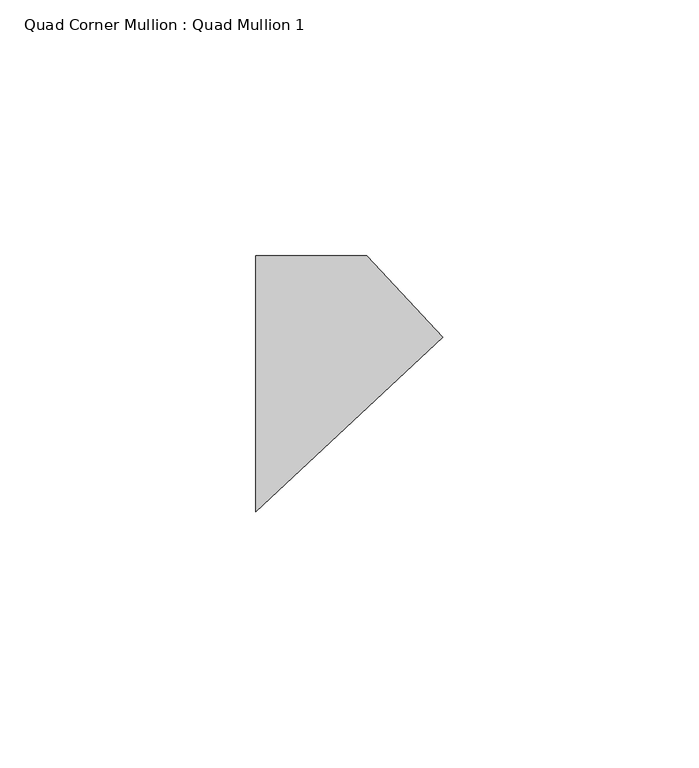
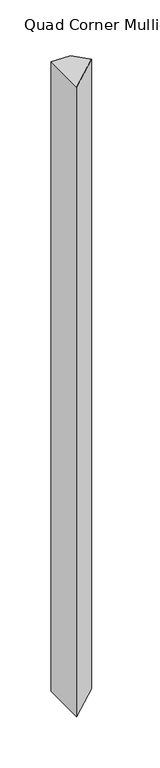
"""IFC4 building model written with IfcOpenShell, lengths in millimetres: member geometry, Quad Corner Mullion : Quad Mullion 1."""

import ifcopenshell
import ifcopenshell.guid

model = None  # the IFC model being written
_history = None  # IfcOwnerHistory: only IFC2X3 demands one
_inside = {}  # id of a spatial element -> (the spatial element, [elements in it])
_under = {}  # id of a project, library or spatial element -> (it, [spatial elements below it])
_declared = {}  # id of a project -> (the project, [libraries it declares])
_typed = {}  # id of a type object -> (the type object, [elements of that type])
_made_of = {}  # id of a material, layer set ... -> (it, [elements and type objects made of it])


def new_model(schema):
    """Start an empty IFC model of exactly this schema.

    Asked for "IFC4X3", IfcOpenShell would pick the latest addendum, in which some entities
    have other attributes; the version numbers below select the first issue.
    IFC2X3 requires an IfcOwnerHistory on every rooted entity: one is made here for all.
    """
    global model, _history
    if schema == "IFC4X3":
        model = ifcopenshell.file(schema_version=(4, 3, 0, 0))
    else:
        model = ifcopenshell.file(schema=schema)
    _inside.clear()
    _under.clear()
    _declared.clear()
    _typed.clear()
    _made_of.clear()
    _history = None
    if model.schema == "IFC2X3":
        org = make("IfcOrganization", Name="unknown")
        user = make(
            "IfcPersonAndOrganization",
            ThePerson=make("IfcPerson", FamilyName="unknown"),
            TheOrganization=org,
        )
        app = make(
            "IfcApplication",
            ApplicationDeveloper=org,
            Version="unknown",
            ApplicationFullName="unknown",
            ApplicationIdentifier="unknown",
        )
        _history = make(
            "IfcOwnerHistory",
            OwningUser=user,
            OwningApplication=app,
            ChangeAction="ADDED",
            CreationDate=0,
        )
    return model


def make(cls, **values):
    """One entity of the class cls with the attributes given. An attribute that is None is left unset."""
    return model.create_entity(
        cls, **{name: value for name, value in values.items() if value is not None}
    )


def rooted(cls, **values):
    """An entity with a GlobalId (a new one), such as an element, a storey or a relation."""
    return make(cls, GlobalId=ifcopenshell.guid.new(), OwnerHistory=_history, **values)


def si_unit(unit_type, name, prefix=None):
    """IfcSIUnit, for example si_unit("LENGTHUNIT", "METRE", prefix="MILLI")."""
    return make("IfcSIUnit", UnitType=unit_type, Prefix=prefix, Name=name)


def assignment(units):
    """IfcUnitAssignment: the units of a project."""
    return None if units is None else make("IfcUnitAssignment", Units=units)


def point(xyz):
    """IfcCartesianPoint."""
    return None if xyz is None else make("IfcCartesianPoint", Coordinates=xyz)


def direction(xyz):
    """IfcDirection."""
    return None if xyz is None else make("IfcDirection", DirectionRatios=xyz)


def frame(location, z_axis=None, x_axis=None):
    """IfcAxis2Placement3D, a coordinate frame: its origin and axes. An axis left out is left unset."""
    return make(
        "IfcAxis2Placement3D",
        Location=point(location),
        Axis=direction(z_axis),
        RefDirection=direction(x_axis),
    )


def origin():
    """The frame at (0, 0, 0) with its axes left unset."""
    return frame((0.0, 0.0, 0.0))


def place(relative_to, where):
    """IfcLocalPlacement: puts the frame where relative to a parent placement (None: the world)."""
    return make(
        "IfcLocalPlacement", PlacementRelTo=relative_to, RelativePlacement=where
    )


def context(
    kind, dimensions, precision=None, world=None, true_north=None, identifier=None
):
    """IfcGeometricRepresentationContext, for example the 3D "Model" context."""
    return make(
        "IfcGeometricRepresentationContext",
        ContextIdentifier=identifier,
        ContextType=kind,
        CoordinateSpaceDimension=dimensions,
        Precision=precision,
        WorldCoordinateSystem=world,
        TrueNorth=true_north,
    )


def project(units=None, contexts=None):
    """IfcProject with its units and contexts."""
    return rooted(
        "IfcProject",
        Name="project",
        RepresentationContexts=contexts,
        UnitsInContext=assignment(units),
    )


def spatial(cls, under=None, at=None, **own):
    """A site, building, storey or space (cls), placed at a placement, below another one or the project."""
    s = rooted(cls, ObjectPlacement=at, **own)
    if under is not None:
        _under.setdefault(under.id(), (under, []))[1].append(s)
    return s


def polyline(points):
    """IfcPolyline through the points."""
    return make("IfcPolyline", Points=[point(p) for p in points])


def outline(outer, holes=None, kind="AREA"):
    """IfcArbitraryClosedProfileDef: a profile drawn as a closed curve; with holes, ...WithVoids."""
    if holes is None:
        return make("IfcArbitraryClosedProfileDef", ProfileType=kind, OuterCurve=outer)
    return make(
        "IfcArbitraryProfileDefWithVoids",
        ProfileType=kind,
        OuterCurve=outer,
        InnerCurves=holes,
    )


def extrude(swept, where, along, depth):
    """IfcExtrudedAreaSolid: the profile swept, set in the frame where, extruded along a direction by depth."""
    return make(
        "IfcExtrudedAreaSolid",
        SweptArea=swept,
        Position=where,
        ExtrudedDirection=direction(along),
        Depth=depth,
    )


def shape(context_of_items, identifier, shape_type, items):
    """IfcShapeRepresentation: the items that make up one representation, for example the "Body"."""
    return make(
        "IfcShapeRepresentation",
        ContextOfItems=context_of_items,
        RepresentationIdentifier=identifier,
        RepresentationType=shape_type,
        Items=items,
    )


def source(mapping_origin, context_of_items, identifier, shape_type, items):
    """IfcRepresentationMap: a shape defined once, which mapped items show again and again."""
    return make(
        "IfcRepresentationMap",
        MappingOrigin=mapping_origin,
        MappedRepresentation=shape(context_of_items, identifier, shape_type, items),
    )


def transform(
    local_origin,
    x_axis=None,
    y_axis=None,
    z_axis=None,
    scale=None,
    scale2=None,
    scale3=None,
    uniform=True,
):
    """IfcCartesianTransformationOperator3D, or its non-uniform kind. x_axis, y_axis, z_axis: its Axis1, 2, 3."""
    if uniform:
        return make(
            "IfcCartesianTransformationOperator3D",
            Axis1=direction(x_axis),
            Axis2=direction(y_axis),
            LocalOrigin=point(local_origin),
            Scale=scale,
            Axis3=direction(z_axis),
        )
    return make(
        "IfcCartesianTransformationOperator3DnonUniform",
        Axis1=direction(x_axis),
        Axis2=direction(y_axis),
        LocalOrigin=point(local_origin),
        Scale=scale,
        Axis3=direction(z_axis),
        Scale2=scale2,
        Scale3=scale3,
    )


def mapped(mapping_source, mapping_target):
    """IfcMappedItem: shows the shape of a source again, moved by a transform."""
    return make(
        "IfcMappedItem", MappingSource=mapping_source, MappingTarget=mapping_target
    )


def made_of(thing, what):
    """Note that an element or type object is made of a material, layer set ...; save() writes the relation."""
    if what is not None:
        _made_of.setdefault(what.id(), (what, []))[1].append(thing)
    return thing


def element(
    cls,
    number,
    at=None,
    inside=None,
    cuts=None,
    type_object=None,
    material=None,
    context=None,
    identifier="Body",
    shape_type=None,
    held_by="IfcProductDefinitionShape",
    body=None,
    shapes=None,
    **own,
):
    """One element of the class cls, such as IfcWall. Its Tag is "e" and its number.

    at: its placement. inside: the storey or other place that contains it. cuts: it is an
    opening in that element (IfcRelVoidsElement). A single representation is given by context,
    identifier, shape_type and body (its items); several are given by shapes. held_by: the class
    of the entity that holds the representations. save() writes the other relations.
    """
    e = rooted(cls, Tag="e%d" % number, ObjectPlacement=at, **own)
    if body is not None:
        shapes = [shape(context, identifier, shape_type, body)]
    if shapes is not None:
        e.Representation = make(held_by, Representations=shapes)
    if inside is not None:
        _inside.setdefault(inside.id(), (inside, []))[1].append(e)
    if cuts is not None:
        rooted(
            "IfcRelVoidsElement", RelatingBuildingElement=cuts, RelatedOpeningElement=e
        )
    if type_object is not None:
        _typed.setdefault(type_object.id(), (type_object, []))[1].append(e)
    return made_of(e, material)


def aggregate(whole, parts):
    """IfcRelAggregates: a whole, such as a stair, and the parts it consists of."""
    return rooted("IfcRelAggregates", RelatingObject=whole, RelatedObjects=parts)


def save(model, path):
    """Write the relations noted so far, then the file.

    IfcRelAggregates (storeys below a building ...), IfcRelContainedInSpatialStructure (elements
    in a storey), IfcRelDefinesByType, IfcRelAssociatesMaterial and IfcRelDeclares: one each for
    every whole, place, type object, material and project.
    """
    for whole, parts in _under.values():
        aggregate(whole, parts)
    for where, things in _inside.values():
        rooted(
            "IfcRelContainedInSpatialStructure",
            RelatedElements=things,
            RelatingStructure=where,
        )
    for kind, things in _typed.values():
        rooted("IfcRelDefinesByType", RelatedObjects=things, RelatingType=kind)
    for what, things in _made_of.values():
        rooted("IfcRelAssociatesMaterial", RelatedObjects=things, RelatingMaterial=what)
    for by, libraries in _declared.values():
        rooted("IfcRelDeclares", RelatingContext=by, RelatedDefinitions=libraries)
    model.write(path)


def quad_corner_mullion_quad_mullion_1_53f45b9e(model_context):
    return source(origin(), model_context, "Body", "SweptSolid", [
        extrude(outline(polyline([(25.6973757, 9.099918), (-10.8703094, -25.0), (-10.8703094, 25.0), (10.8703094, 25.0), (25.6973757, 9.099918)])), frame((0.0, 0.0, -750.0), z_axis=(0.0, 0.0, 1.0), x_axis=(1.0, 0.0, 0.0)), (0.0, 0.0, 1.0), 750.0),
    ])


if __name__ == "__main__":
    model = new_model("IFC4")
    model_context = context("Model", 3, world=origin())
    ifc_project = project(units=[si_unit("LENGTHUNIT", "METRE", prefix="MILLI")], contexts=[model_context])
    site = spatial("IfcSite", under=ifc_project)
    building = spatial("IfcBuilding", under=site)
    placement = place(None, origin())
    quad_corner_mullion_quad_mullion_1_shape = quad_corner_mullion_quad_mullion_1_53f45b9e(model_context)
    element("IfcMember", 1, ObjectType="Quad Corner Mullion : Quad Mullion 1", at=placement, inside=building, context=model_context, shape_type="MappedRepresentation", body=[
        mapped(quad_corner_mullion_quad_mullion_1_shape, transform((0.0, 0.0, 0.0), x_axis=(1.0, 0.0, 0.0), y_axis=(0.0, 1.0, 0.0), z_axis=(0.0, 0.0, 1.0))),
    ])
    save(model, "model.ifc")
